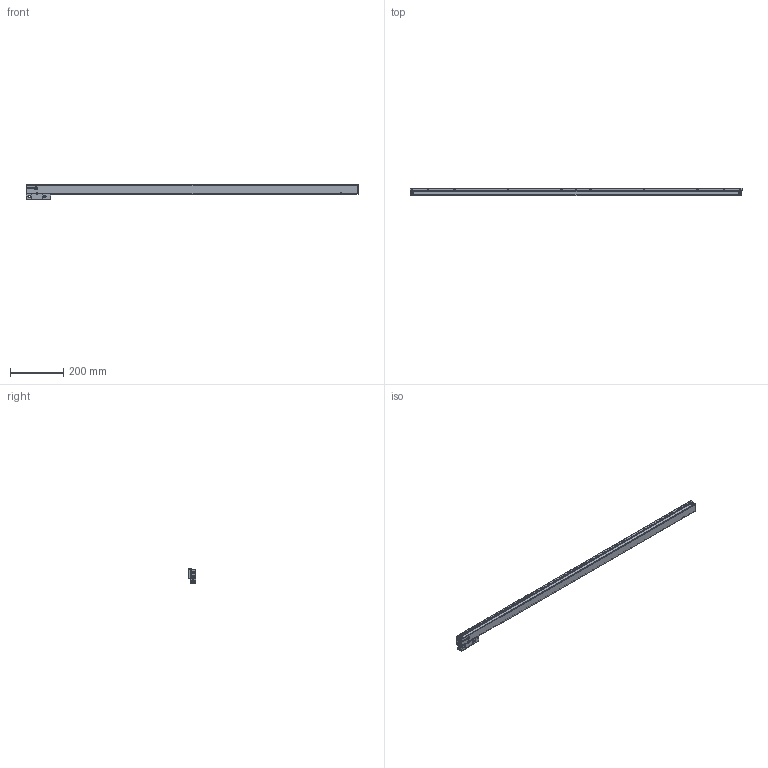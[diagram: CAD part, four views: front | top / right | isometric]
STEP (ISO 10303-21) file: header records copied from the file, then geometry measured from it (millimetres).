
FILE_DESCRIPTION(('Creo Elements/Direct Modeling STEP Export'),'2;1');
FILE_NAME('Regla SV2-1140.stp','2018-10-30T13:18:15',(''),(''),'Creo Elements/Direct Modeling STEP processor for AP214 (Solid Model)','Creo Elements/Direct Modeling 19.0G 27-Nov-2017 (C) Parametric Technology GmbH','');
FILE_SCHEMA(('AUTOMOTIVE_DESIGN { 1 0 10303 214 1 1 1 1 }'));
Products named in the file (4): SOPORTE_SV2; REGLA_SV2-1140; CABEZA_RANURADA_REGLA_SV2; REGLA_SV2-1140mm
Assembly tree (3 placements, depth 2):
  REGLA_SV2-1140mm
    CABEZA_RANURADA_REGLA_SV2
    REGLA_SV2-1140
    SOPORTE_SV2
Bounding box: 1245 x 28 x 56.2 mm (x, y, z)
Volume: 674404.2 mm3; surface area: 360075.1 mm2
Topology: 2 solids, 9 shells, 2835 faces, 7992 edges, 5215 vertices
Faces by surface type: plane 1300, cylinder 1115, cone 228, bspline 130, torus 58, sphere 4
Entity records: 125500 total; most frequent: CARTESIAN_POINT 40053, ORIENTED_EDGE 15988, DIRECTION 13142, EDGE_CURVE 7970, VERTEX_POINT 5215, AXIS2_PLACEMENT_3D 4479, VECTOR 4184, LINE 4184
